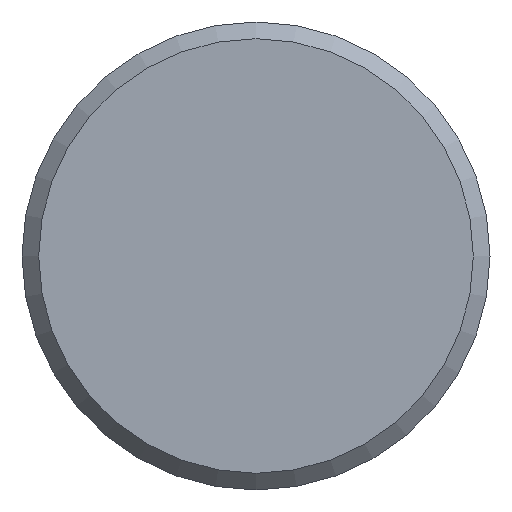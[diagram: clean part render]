
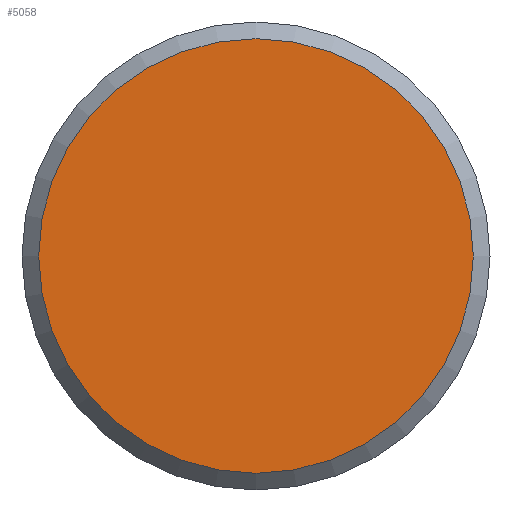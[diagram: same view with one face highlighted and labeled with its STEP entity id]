
A CAD part, left-side view. The second image highlights one B-rep face of the part: STEP entity #5058.
In plain terms, the highlighted planar face has unit normal (-1, 0, 0).
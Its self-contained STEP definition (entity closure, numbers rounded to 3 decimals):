
#1816=PLANE('',#4655);
#1884=ORIENTED_EDGE('',*,*,#2568,.T.);
#2224=CIRCLE('',#4654,6.5);
#2396=VERTEX_POINT('',#4135);
#2568=EDGE_CURVE('',#2396,#2396,#2224,.T.);
#2744=EDGE_LOOP('',(#1884));
#3088=FACE_BOUND('',#2744,.T.);
#3439=DIRECTION('',(-1.,0.,0.));
#3440=DIRECTION('',(0.,-6.5,0.));
#3441=DIRECTION('',(-1.,0.,0.));
#3442=DIRECTION('',(0.,1.,0.));
#4135=CARTESIAN_POINT('',(13.135,163.575,0.));
#4136=CARTESIAN_POINT('',(13.135,170.075,0.));
#4137=CARTESIAN_POINT('',(13.135,170.075,0.));
#4654=AXIS2_PLACEMENT_3D('',#4136,#3439,#3440);
#4655=AXIS2_PLACEMENT_3D('',#4137,#3441,#3442);
#5058=ADVANCED_FACE('',(#3088),#1816,.T.);
